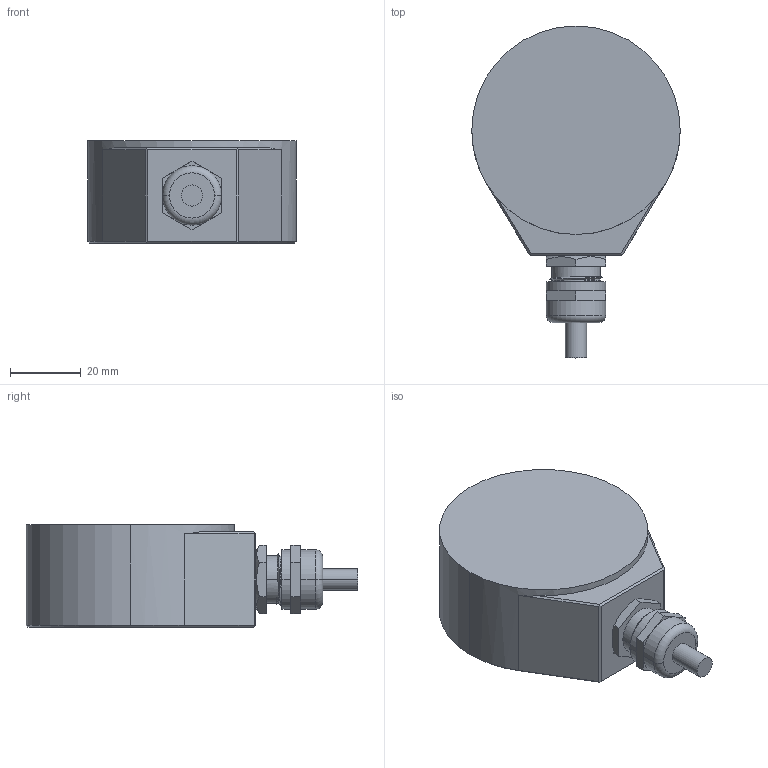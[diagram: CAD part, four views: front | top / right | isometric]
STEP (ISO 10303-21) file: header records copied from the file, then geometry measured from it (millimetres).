
FILE_DESCRIPTION (( 'STEP AP214' ), '1' );
FILE_NAME ('OC-5-TR-290-ANM-TRB-12T-T-CRW.STEP', '2013-03-19T16:01:00', ( '' ), ( '' ), 'SwSTEP 2.0', 'SolidWorks 2006104', '' );
FILE_SCHEMA (( 'AUTOMOTIVE_DESIGN' ));
Length unit declared in the file: millimetre
Products named in the file (1): OC-5-TR-290-ANM-TRB-12T-T-CRW
Bounding box: 59 x 93.93 x 29.02 mm (x, y, z)
Volume: 25515.6 mm3; surface area: 24799.4 mm2
Topology: 7 solids, 7 shells, 477 faces, 1229 edges, 794 vertices
Faces by surface type: plane 193, cone 87, bspline 84, cylinder 82, torus 31
Entity records: 28468 total; most frequent: CARTESIAN_POINT 12017, ORIENTED_EDGE 2446, DIRECTION 2108, EDGE_CURVE 1223, VERTEX_POINT 794, AXIS2_PLACEMENT_3D 764, VECTOR 580, LINE 580
